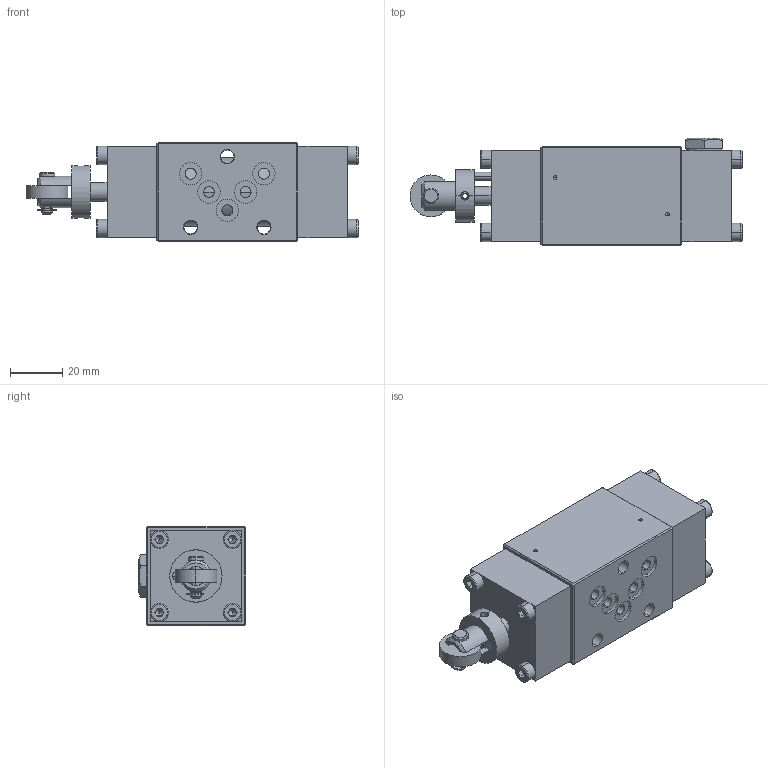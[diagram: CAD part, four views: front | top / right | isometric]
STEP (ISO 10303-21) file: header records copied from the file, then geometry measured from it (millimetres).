
FILE_DESCRIPTION (( 'STEP AP214' ), '1' );
FILE_NAME ('BT4..-Aside.STEP', '2017-03-03T14:27:32', ( '' ), ( '' ), 'SwSTEP 2.0', 'SolidWorks 2016', '' );
FILE_SCHEMA (( 'AUTOMOTIVE_DESIGN' ));
Length unit declared in the file: millimetre
Products named in the file (1): BT4..-Aside
Bounding box: 127 x 41 x 38 mm (x, y, z)
Volume: 125374.6 mm3; surface area: 28378.4 mm2
Topology: 7 solids, 19 shells, 1177 faces, 3127 edges, 2001 vertices
Faces by surface type: plane 570, cylinder 473, cone 69, torus 32, bspline 29, sphere 4
Entity records: 54537 total; most frequent: CARTESIAN_POINT 11876, DIRECTION 6322, ORIENTED_EDGE 6198, EDGE_CURVE 3099, AXIS2_PLACEMENT_3D 2212, VERTEX_POINT 2001, LINE 1898, VECTOR 1898
